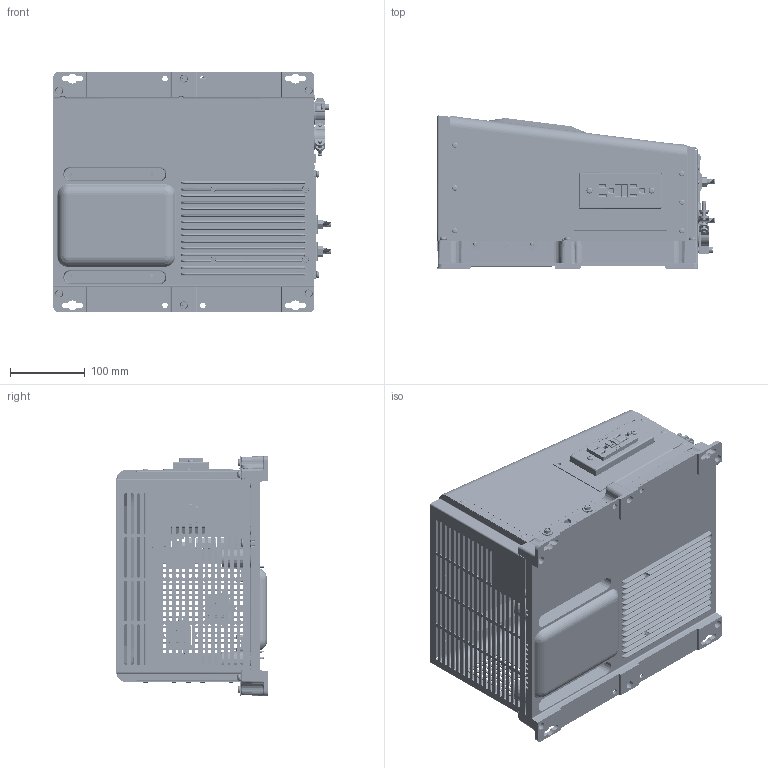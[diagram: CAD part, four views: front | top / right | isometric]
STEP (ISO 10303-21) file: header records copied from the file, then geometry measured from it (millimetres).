
FILE_DESCRIPTION (( 'STEP AP203' ), '1' );
FILE_NAME ('MS2012-G.STEP', '2018-10-22T16:15:56', ( '' ), ( '' ), 'SwSTEP 2.0', 'SolidWorks 2015', '' );
FILE_SCHEMA (( 'CONFIG_CONTROL_DESIGN' ));
Products named in the file (1): MS2012-G
Bounding box: 370.87 x 204.49 x 321.31 mm (x, y, z)
Volume: 2343832.3 mm3; surface area: 1266142.2 mm2
Topology: 104 solids, 104 shells, 13480 faces, 35584 edges, 22440 vertices
Faces by surface type: plane 5060, cylinder 5025, bspline 1915, cone 1040, torus 381, sphere 59
Entity records: 510937 total; most frequent: CARTESIAN_POINT 202828, ORIENTED_EDGE 70648, DIRECTION 56755, EDGE_CURVE 35324, VERTEX_POINT 22440, AXIS2_PLACEMENT_3D 19275, VECTOR 18205, LINE 18205
